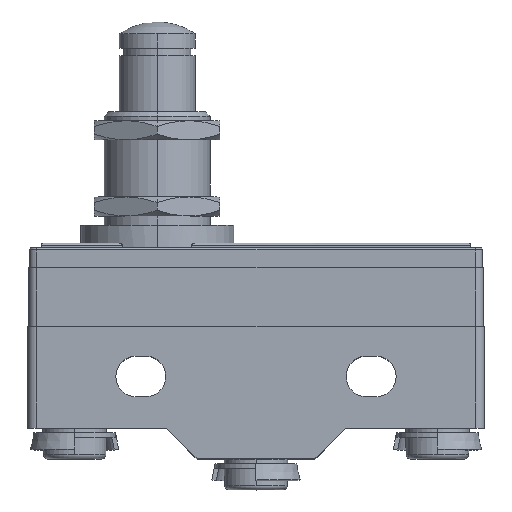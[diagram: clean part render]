
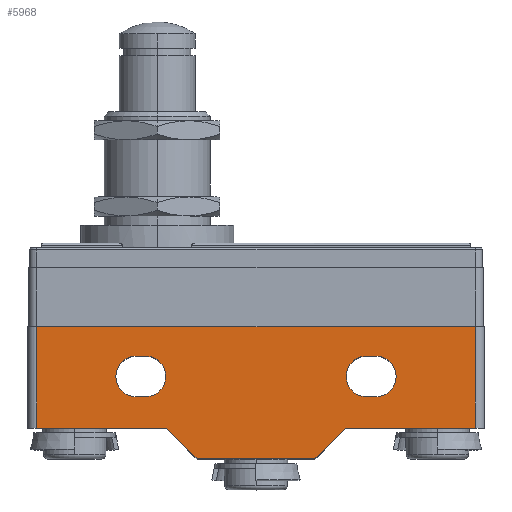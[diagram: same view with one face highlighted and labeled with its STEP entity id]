
A CAD part, top view. The second image highlights one B-rep face of the part: STEP entity #5968.
In plain terms, the highlighted planar face has unit normal (0, 0, 1).
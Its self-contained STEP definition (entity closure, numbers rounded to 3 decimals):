
#730 = LINE ( 'NONE', #731, #4066 ) ;
#731 = CARTESIAN_POINT ( 'NONE',  ( 6.5, -11.9, 9. ) ) ;
#732 = DIRECTION ( 'NONE',  ( 1., 0., 0. ) ) ;
#777 = LINE ( 'NONE', #778, #3971 ) ;
#778 = CARTESIAN_POINT ( 'NONE',  ( 25.15, -8.5, 9. ) ) ;
#779 = DIRECTION ( 'NONE',  ( 1., 0., 0. ) ) ;
#897 = CARTESIAN_POINT ( 'NONE',  ( 13.2, -2.8, 9. ) ) ;
#898 = DIRECTION ( 'NONE',  ( 0., 0., 1. ) ) ;
#899 = DIRECTION ( 'NONE',  ( 1., 0., 0. ) ) ;
#1218 = CARTESIAN_POINT ( 'NONE',  ( -12.2, -2.8, 9. ) ) ;
#1222 = DIRECTION ( 'NONE',  ( 0., 0., 1. ) ) ;
#1223 = DIRECTION ( 'NONE',  ( 1., 0., 0. ) ) ;
#1603 = CARTESIAN_POINT ( 'NONE',  ( 12.2, -2.8, 9. ) ) ;
#1625 = DIRECTION ( 'NONE',  ( 0., 0., 1. ) ) ;
#1626 = DIRECTION ( 'NONE',  ( 1., 0., 0. ) ) ;
#1627 = CARTESIAN_POINT ( 'NONE',  ( 13.2, -2.8, 9. ) ) ;
#1628 = LINE ( 'NONE', #1629, #1975 ) ;
#1629 = CARTESIAN_POINT ( 'NONE',  ( 12.2, -5.05, 9. ) ) ;
#1630 = DIRECTION ( 'NONE',  ( 1., 0., 0. ) ) ;
#1631 = LINE ( 'NONE', #1632, #1998 ) ;
#1632 = CARTESIAN_POINT ( 'NONE',  ( 12.2, -0.55, 9. ) ) ;
#1633 = DIRECTION ( 'NONE',  ( -1., 0., 0. ) ) ;
#1634 = DIRECTION ( 'NONE',  ( 0., 0., 1. ) ) ;
#1635 = DIRECTION ( 'NONE',  ( 1., 0., 0. ) ) ;
#1636 = CARTESIAN_POINT ( 'NONE',  ( -13.2, -2.8, 9. ) ) ;
#1637 = LINE ( 'NONE', #1638, #2003 ) ;
#1638 = CARTESIAN_POINT ( 'NONE',  ( -13.2, -5.05, 9. ) ) ;
#1639 = DIRECTION ( 'NONE',  ( 1., 0., 0. ) ) ;
#1640 = DIRECTION ( 'NONE',  ( 0., 0., 1. ) ) ;
#1641 = DIRECTION ( 'NONE',  ( 1., 0., 0. ) ) ;
#1642 = CARTESIAN_POINT ( 'NONE',  ( -12.2, -2.8, 9. ) ) ;
#1643 = LINE ( 'NONE', #1644, #2005 ) ;
#1644 = CARTESIAN_POINT ( 'NONE',  ( -13.2, -0.55, 9. ) ) ;
#1645 = DIRECTION ( 'NONE',  ( -1., 0., 0. ) ) ;
#1646 = DIRECTION ( 'NONE',  ( 0., 0., 1. ) ) ;
#1647 = DIRECTION ( 'NONE',  ( 1., 0., 0. ) ) ;
#1649 = LINE ( 'NONE', #1650, #1941 ) ;
#1650 = CARTESIAN_POINT ( 'NONE',  ( -24.15, 2.7, 9. ) ) ;
#1651 = DIRECTION ( 'NONE',  ( 1., 0., 0. ) ) ;
#1652 = LINE ( 'NONE', #1653, #1973 ) ;
#1653 = CARTESIAN_POINT ( 'NONE',  ( -24.15, 0., 9. ) ) ;
#1654 = DIRECTION ( 'NONE',  ( 0., -1., 0. ) ) ;
#1655 = LINE ( 'NONE', #1656, #1972 ) ;
#1656 = CARTESIAN_POINT ( 'NONE',  ( -9.9, -8.5, 9. ) ) ;
#1657 = DIRECTION ( 'NONE',  ( 1., 0., 0. ) ) ;
#1658 = LINE ( 'NONE', #1659, #1968 ) ;
#1659 = CARTESIAN_POINT ( 'NONE',  ( -6.5, -11.9, 9. ) ) ;
#1660 = DIRECTION ( 'NONE',  ( 0.707, -0.707, 0. ) ) ;
#1661 = LINE ( 'NONE', #1662, #1967 ) ;
#1662 = CARTESIAN_POINT ( 'NONE',  ( 9.9, -8.5, 9. ) ) ;
#1663 = DIRECTION ( 'NONE',  ( 0.707, 0.707, 0. ) ) ;
#1664 = LINE ( 'NONE', #1665, #2001 ) ;
#1665 = CARTESIAN_POINT ( 'NONE',  ( 24.15, 0., 9. ) ) ;
#1666 = DIRECTION ( 'NONE',  ( 0., 1., 0. ) ) ;
#1853 = AXIS2_PLACEMENT_3D ( 'NONE', #1218, #1222, #1223 ) ;
#1941 = VECTOR ( 'NONE', #1651, 1000. ) ;
#1966 = AXIS2_PLACEMENT_3D ( 'NONE', #1603, #1625, #1626 ) ;
#1967 = VECTOR ( 'NONE', #1663, 1000. ) ;
#1968 = VECTOR ( 'NONE', #1660, 1000. ) ;
#1972 = VECTOR ( 'NONE', #1657, 1000. ) ;
#1973 = VECTOR ( 'NONE', #1654, 1000. ) ;
#1975 = VECTOR ( 'NONE', #1630, 1000. ) ;
#1976 = AXIS2_PLACEMENT_3D ( 'NONE', #1627, #1634, #1635 ) ;
#1996 = AXIS2_PLACEMENT_3D ( 'NONE', #1642, #1646, #1647 ) ;
#1997 = AXIS2_PLACEMENT_3D ( 'NONE', #1636, #1640, #1641 ) ;
#1998 = VECTOR ( 'NONE', #1633, 1000. ) ;
#2001 = VECTOR ( 'NONE', #1666, 1000. ) ;
#2003 = VECTOR ( 'NONE', #1639, 1000. ) ;
#2005 = VECTOR ( 'NONE', #1645, 1000. ) ;
#2566 = VERTEX_POINT ( 'NONE', #5777 ) ;
#2567 = VERTEX_POINT ( 'NONE', #5778 ) ;
#2571 = VERTEX_POINT ( 'NONE', #5781 ) ;
#2572 = VERTEX_POINT ( 'NONE', #5782 ) ;
#2661 = VERTEX_POINT ( 'NONE', #2792 ) ;
#2662 = VERTEX_POINT ( 'NONE', #2793 ) ;
#2674 = VERTEX_POINT ( 'NONE', #2805 ) ;
#2675 = VERTEX_POINT ( 'NONE', #2806 ) ;
#2717 = VERTEX_POINT ( 'NONE', #2845 ) ;
#2718 = VERTEX_POINT ( 'NONE', #2846 ) ;
#2719 = VERTEX_POINT ( 'NONE', #2847 ) ;
#2720 = VERTEX_POINT ( 'NONE', #2848 ) ;
#2721 = VERTEX_POINT ( 'NONE', #2849 ) ;
#2722 = VERTEX_POINT ( 'NONE', #2850 ) ;
#2723 = VERTEX_POINT ( 'NONE', #2851 ) ;
#2724 = VERTEX_POINT ( 'NONE', #2852 ) ;
#2725 = VERTEX_POINT ( 'NONE', #2853 ) ;
#2726 = VERTEX_POINT ( 'NONE', #2854 ) ;
#2792 = CARTESIAN_POINT ( 'NONE',  ( 24.15, -8.5, 9. ) ) ;
#2793 = CARTESIAN_POINT ( 'NONE',  ( 9.9, -8.5, 9. ) ) ;
#2805 = CARTESIAN_POINT ( 'NONE',  ( 6.5, -11.9, 9. ) ) ;
#2806 = CARTESIAN_POINT ( 'NONE',  ( -6.5, -11.9, 9. ) ) ;
#2845 = CARTESIAN_POINT ( 'NONE',  ( 12.2, -5.05, 9. ) ) ;
#2846 = CARTESIAN_POINT ( 'NONE',  ( 13.2, -5.05, 9. ) ) ;
#2847 = CARTESIAN_POINT ( 'NONE',  ( 12.2, -0.55, 9. ) ) ;
#2848 = CARTESIAN_POINT ( 'NONE',  ( -13.2, -5.05, 9. ) ) ;
#2849 = CARTESIAN_POINT ( 'NONE',  ( -12.2, -5.05, 9. ) ) ;
#2850 = CARTESIAN_POINT ( 'NONE',  ( -13.2, -0.55, 9. ) ) ;
#2851 = CARTESIAN_POINT ( 'NONE',  ( -24.15, 2.7, 9. ) ) ;
#2852 = CARTESIAN_POINT ( 'NONE',  ( 24.15, 2.7, 9. ) ) ;
#2853 = CARTESIAN_POINT ( 'NONE',  ( -24.15, -8.5, 9. ) ) ;
#2854 = CARTESIAN_POINT ( 'NONE',  ( -9.9, -8.5, 9. ) ) ;
#3324 = PLANE ( 'NONE',  #4640 ) ;
#3325 = CARTESIAN_POINT ( 'NONE',  ( 0., 0., 9. ) ) ;
#3326 = DIRECTION ( 'NONE',  ( 0., 0., -1. ) ) ;
#3327 = DIRECTION ( 'NONE',  ( -1., 0., 0. ) ) ;
#3971 = VECTOR ( 'NONE', #779, 1000. ) ;
#4066 = VECTOR ( 'NONE', #732, 1000. ) ;
#4145 = FACE_OUTER_BOUND ( 'NONE', #4755, .T. ) ;
#4169 = FACE_BOUND ( 'NONE', #4757, .T. ) ;
#4262 = AXIS2_PLACEMENT_3D ( 'NONE', #897, #898, #899 ) ;
#4640 = AXIS2_PLACEMENT_3D ( 'NONE', #3325, #3326, #3327 ) ;
#4643 = FACE_BOUND ( 'NONE', #4752, .T. ) ;
#4752 = EDGE_LOOP ( 'NONE', ( #5185, #5187, #5186, #5188, #5189 ) ) ;
#4755 = EDGE_LOOP ( 'NONE', ( #5195, #5197, #5196, #5198, #5199, #5200, #5201, #5202 ) ) ;
#4757 = EDGE_LOOP ( 'NONE', ( #5190, #5192, #5191, #5193, #5194 ) ) ;
#5185 = ORIENTED_EDGE ( 'NONE', *, *, #6444, .F. ) ;
#5186 = ORIENTED_EDGE ( 'NONE', *, *, #6445, .F. ) ;
#5187 = ORIENTED_EDGE ( 'NONE', *, *, #6443, .F. ) ;
#5188 = ORIENTED_EDGE ( 'NONE', *, *, #6244, .F. ) ;
#5189 = ORIENTED_EDGE ( 'NONE', *, *, #6446, .F. ) ;
#5190 = ORIENTED_EDGE ( 'NONE', *, *, #6447, .F. ) ;
#5191 = ORIENTED_EDGE ( 'NONE', *, *, #6449, .F. ) ;
#5192 = ORIENTED_EDGE ( 'NONE', *, *, #6448, .F. ) ;
#5193 = ORIENTED_EDGE ( 'NONE', *, *, #6339, .F. ) ;
#5194 = ORIENTED_EDGE ( 'NONE', *, *, #6450, .F. ) ;
#5195 = ORIENTED_EDGE ( 'NONE', *, *, #6451, .F. ) ;
#5196 = ORIENTED_EDGE ( 'NONE', *, *, #6453, .T. ) ;
#5197 = ORIENTED_EDGE ( 'NONE', *, *, #6452, .T. ) ;
#5198 = ORIENTED_EDGE ( 'NONE', *, *, #6454, .T. ) ;
#5199 = ORIENTED_EDGE ( 'NONE', *, *, #6190, .T. ) ;
#5200 = ORIENTED_EDGE ( 'NONE', *, *, #6455, .T. ) ;
#5201 = ORIENTED_EDGE ( 'NONE', *, *, #6205, .T. ) ;
#5202 = ORIENTED_EDGE ( 'NONE', *, *, #6456, .T. ) ;
#5777 = CARTESIAN_POINT ( 'NONE',  ( 15.45, -2.8, 9. ) ) ;
#5778 = CARTESIAN_POINT ( 'NONE',  ( 13.2, -0.55, 9. ) ) ;
#5781 = CARTESIAN_POINT ( 'NONE',  ( -9.95, -2.8, 9. ) ) ;
#5782 = CARTESIAN_POINT ( 'NONE',  ( -12.2, -0.55, 9. ) ) ;
#5968 = ADVANCED_FACE ( 'NONE', ( #4643, #4169, #4145 ), #3324, .F. ) ;
#6190 = EDGE_CURVE ( 'NONE', #2675, #2674, #730, .T. ) ;
#6205 = EDGE_CURVE ( 'NONE', #2662, #2661, #777, .T. ) ;
#6244 = EDGE_CURVE ( 'NONE', #2566, #2567, #6729, .T. ) ;
#6339 = EDGE_CURVE ( 'NONE', #2571, #2572, #6777, .T. ) ;
#6443 = EDGE_CURVE ( 'NONE', #2719, #2717, #6808, .T. ) ;
#6444 = EDGE_CURVE ( 'NONE', #2717, #2718, #1628, .T. ) ;
#6445 = EDGE_CURVE ( 'NONE', #2567, #2719, #1631, .T. ) ;
#6446 = EDGE_CURVE ( 'NONE', #2718, #2566, #6809, .T. ) ;
#6447 = EDGE_CURVE ( 'NONE', #2720, #2721, #1637, .T. ) ;
#6448 = EDGE_CURVE ( 'NONE', #2722, #2720, #6810, .T. ) ;
#6449 = EDGE_CURVE ( 'NONE', #2572, #2722, #1643, .T. ) ;
#6450 = EDGE_CURVE ( 'NONE', #2721, #2571, #6811, .T. ) ;
#6451 = EDGE_CURVE ( 'NONE', #2723, #2724, #1649, .T. ) ;
#6452 = EDGE_CURVE ( 'NONE', #2723, #2725, #1652, .T. ) ;
#6453 = EDGE_CURVE ( 'NONE', #2725, #2726, #1655, .T. ) ;
#6454 = EDGE_CURVE ( 'NONE', #2726, #2675, #1658, .T. ) ;
#6455 = EDGE_CURVE ( 'NONE', #2674, #2662, #1661, .T. ) ;
#6456 = EDGE_CURVE ( 'NONE', #2661, #2724, #1664, .T. ) ;
#6729 = CIRCLE ( 'NONE', #4262, 2.25 ) ;
#6777 = CIRCLE ( 'NONE', #1853, 2.25 ) ;
#6808 = CIRCLE ( 'NONE', #1966, 2.25 ) ;
#6809 = CIRCLE ( 'NONE', #1976, 2.25 ) ;
#6810 = CIRCLE ( 'NONE', #1997, 2.25 ) ;
#6811 = CIRCLE ( 'NONE', #1996, 2.25 ) ;
